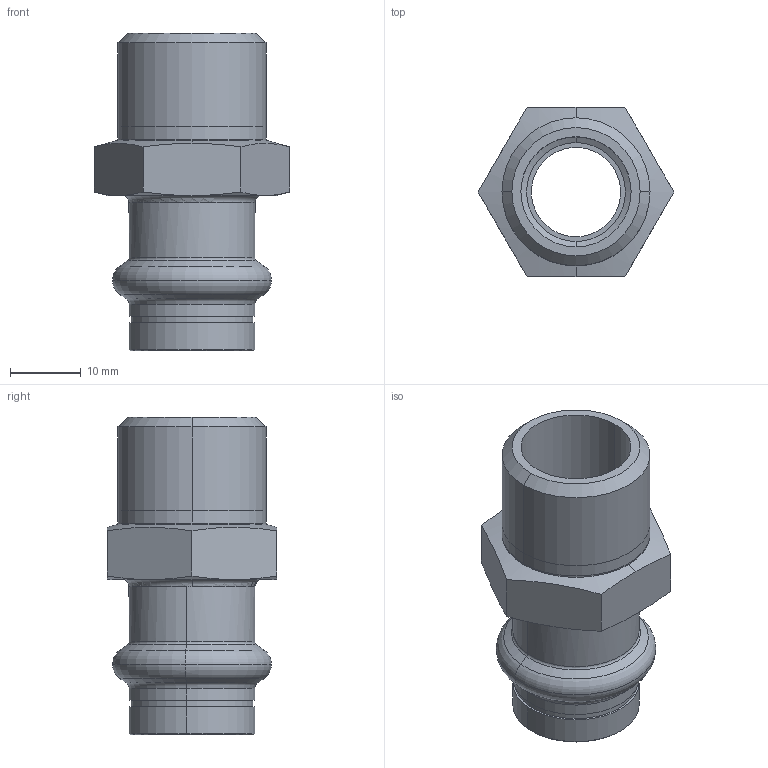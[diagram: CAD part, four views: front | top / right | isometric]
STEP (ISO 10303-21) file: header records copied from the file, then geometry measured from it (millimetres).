
FILE_DESCRIPTION(('CoCreate Modeling STEP Export'),'2;1');
FILE_NAME('8243GVW1512.stp','2013-03-05T10:29:55',(''),(''),'CoCreate Modeling STEP processor for AP214 (Solid Model)','CoCreate Modeling 17.00A 17-Jun-2010 (C) Parametric Technology GmbH','');
FILE_SCHEMA(('AUTOMOTIVE_DESIGN { 1 0 10303 214 1 1 1 1 }'));
Length unit declared in the file: millimetre
Products named in the file (1): 8243GVW1512
Bounding box: 27.71 x 24 x 45 mm (x, y, z)
Volume: 6814.5 mm3; surface area: 5887.2 mm2
Topology: 1 solids, 1 shells, 69 faces, 152 edges, 90 vertices
Faces by surface type: cylinder 24, cone 22, plane 13, torus 10
Entity records: 2155 total; most frequent: CARTESIAN_POINT 853, ORIENTED_EDGE 304, DIRECTION 204, EDGE_CURVE 152, VERTEX_POINT 90, AXIS2_PLACEMENT_3D 79, EDGE_LOOP 76, FACE_OUTER_BOUND 69
